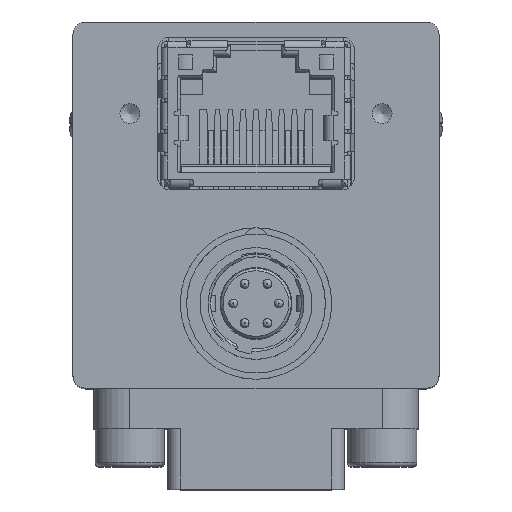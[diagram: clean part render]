
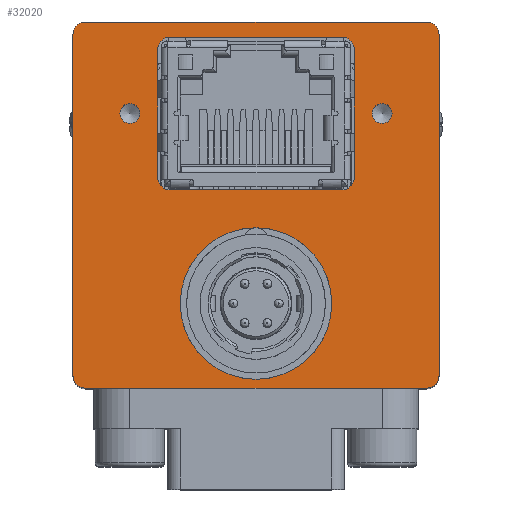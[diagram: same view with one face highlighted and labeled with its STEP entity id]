
A CAD part, top view. The second image highlights one B-rep face of the part: STEP entity #32020.
In plain terms, the highlighted planar face has unit normal (0, 0, 1).
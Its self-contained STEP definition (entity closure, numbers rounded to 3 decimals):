
#516=FACE_BOUND('',#5537,.T.);
#517=FACE_BOUND('',#5538,.T.);
#518=FACE_BOUND('',#5539,.T.);
#519=FACE_BOUND('',#5540,.T.);
#756=CIRCLE('',#33558,1.);
#1243=CIRCLE('',#34578,0.784);
#1247=CIRCLE('',#34586,0.784);
#1257=CIRCLE('',#34607,6.);
#1275=CIRCLE('',#34667,1.);
#1276=CIRCLE('',#34670,1.);
#1277=CIRCLE('',#34675,1.);
#1279=CIRCLE('',#34693,1.);
#1280=CIRCLE('',#34696,1.);
#1281=CIRCLE('',#34698,1.);
#1282=CIRCLE('',#34699,1.);
#3813=FACE_OUTER_BOUND('',#5536,.T.);
#5536=EDGE_LOOP('',(#25800,#25801,#25802,#25803,#25804,#25805,#25806,#25807));
#5537=EDGE_LOOP('',(#25808));
#5538=EDGE_LOOP('',(#25809));
#5539=EDGE_LOOP('',(#25810));
#5540=EDGE_LOOP('',(#25811,#25812,#25813,#25814,#25815,#25816,#25817,#25818));
#7326=LINE('',#51189,#10157);
#8257=LINE('',#55960,#11088);
#8261=LINE('',#55970,#11092);
#8263=LINE('',#55976,#11094);
#8281=LINE('',#56018,#11112);
#8284=LINE('',#56029,#11115);
#8285=LINE('',#56032,#11116);
#8286=LINE('',#56033,#11117);
#10157=VECTOR('',#38514,10.);
#11088=VECTOR('',#41663,10.);
#11092=VECTOR('',#41677,10.);
#11094=VECTOR('',#41685,10.);
#11112=VECTOR('',#41739,10.);
#11115=VECTOR('',#41750,10.);
#11116=VECTOR('',#41753,10.);
#11117=VECTOR('',#41754,10.);
#12796=VERTEX_POINT('',#51179);
#12797=VERTEX_POINT('',#51181);
#12799=VERTEX_POINT('',#51188);
#13795=VERTEX_POINT('',#55620);
#13809=VERTEX_POINT('',#55658);
#13825=VERTEX_POINT('',#55738);
#13888=VERTEX_POINT('',#55952);
#13889=VERTEX_POINT('',#55954);
#13890=VERTEX_POINT('',#55958);
#13891=VERTEX_POINT('',#55968);
#13892=VERTEX_POINT('',#55972);
#13896=VERTEX_POINT('',#56011);
#13897=VERTEX_POINT('',#56012);
#13898=VERTEX_POINT('',#56017);
#13899=VERTEX_POINT('',#56021);
#13900=VERTEX_POINT('',#56025);
#13901=VERTEX_POINT('',#56026);
#13902=VERTEX_POINT('',#56028);
#13903=VERTEX_POINT('',#56030);
#16339=EDGE_CURVE('',#12797,#12796,#756,.T.);
#16343=EDGE_CURVE('',#12799,#12797,#7326,.T.);
#17822=EDGE_CURVE('',#13795,#13795,#1243,.T.);
#17842=EDGE_CURVE('',#13809,#13809,#1247,.T.);
#17871=EDGE_CURVE('',#13825,#13825,#1257,.T.);
#17981=EDGE_CURVE('',#13889,#13888,#1275,.T.);
#17984=EDGE_CURVE('',#13888,#13890,#8257,.T.);
#17985=EDGE_CURVE('',#13890,#12799,#1276,.T.);
#17989=EDGE_CURVE('',#12796,#13891,#8261,.T.);
#17991=EDGE_CURVE('',#13891,#13892,#1277,.T.);
#17992=EDGE_CURVE('',#13892,#13889,#8263,.T.);
#18009=EDGE_CURVE('',#13896,#13897,#1279,.T.);
#18012=EDGE_CURVE('',#13898,#13896,#8281,.T.);
#18014=EDGE_CURVE('',#13899,#13898,#1280,.T.);
#18016=EDGE_CURVE('',#13900,#13901,#1281,.T.);
#18017=EDGE_CURVE('',#13902,#13900,#8284,.T.);
#18018=EDGE_CURVE('',#13903,#13902,#1282,.T.);
#18019=EDGE_CURVE('',#13897,#13903,#8285,.T.);
#18020=EDGE_CURVE('',#13901,#13899,#8286,.T.);
#25800=ORIENTED_EDGE('',*,*,#18016,.F.);
#25801=ORIENTED_EDGE('',*,*,#18017,.F.);
#25802=ORIENTED_EDGE('',*,*,#18018,.F.);
#25803=ORIENTED_EDGE('',*,*,#18019,.F.);
#25804=ORIENTED_EDGE('',*,*,#18009,.F.);
#25805=ORIENTED_EDGE('',*,*,#18012,.F.);
#25806=ORIENTED_EDGE('',*,*,#18014,.F.);
#25807=ORIENTED_EDGE('',*,*,#18020,.F.);
#25808=ORIENTED_EDGE('',*,*,#17822,.T.);
#25809=ORIENTED_EDGE('',*,*,#17842,.T.);
#25810=ORIENTED_EDGE('',*,*,#17871,.T.);
#25811=ORIENTED_EDGE('',*,*,#17985,.T.);
#25812=ORIENTED_EDGE('',*,*,#16343,.T.);
#25813=ORIENTED_EDGE('',*,*,#16339,.T.);
#25814=ORIENTED_EDGE('',*,*,#17989,.T.);
#25815=ORIENTED_EDGE('',*,*,#17991,.T.);
#25816=ORIENTED_EDGE('',*,*,#17992,.T.);
#25817=ORIENTED_EDGE('',*,*,#17981,.T.);
#25818=ORIENTED_EDGE('',*,*,#17984,.T.);
#29045=PLANE('',#34697);
#32020=ADVANCED_FACE('',(#3813,#516,#517,#518,#519),#29045,.F.);
#33558=AXIS2_PLACEMENT_3D('',#51182,#38507,#38508);
#34578=AXIS2_PLACEMENT_3D('',#55621,#41355,#41356);
#34586=AXIS2_PLACEMENT_3D('',#55659,#41387,#41388);
#34607=AXIS2_PLACEMENT_3D('',#55739,#41445,#41446);
#34667=AXIS2_PLACEMENT_3D('',#55955,#41657,#41658);
#34670=AXIS2_PLACEMENT_3D('',#55962,#41666,#41667);
#34675=AXIS2_PLACEMENT_3D('',#55974,#41681,#41682);
#34693=AXIS2_PLACEMENT_3D('',#56013,#41733,#41734);
#34696=AXIS2_PLACEMENT_3D('',#56022,#41743,#41744);
#34697=AXIS2_PLACEMENT_3D('',#56024,#41746,#41747);
#34698=AXIS2_PLACEMENT_3D('',#56027,#41748,#41749);
#34699=AXIS2_PLACEMENT_3D('',#56031,#41751,#41752);
#38507=DIRECTION('center_axis',(0.,0.,
-1.));
#38508=DIRECTION('ref_axis',(1.,0.,0.));
#38514=DIRECTION('',(1.,0.,0.));
#41355=DIRECTION('center_axis',(0.,0.,
-1.));
#41356=DIRECTION('ref_axis',(-1.,0.,0.));
#41387=DIRECTION('center_axis',(0.,0.,
-1.));
#41388=DIRECTION('ref_axis',(1.,0.,0.));
#41445=DIRECTION('center_axis',(0.,0.,
-1.));
#41446=DIRECTION('ref_axis',(1.,0.,0.));
#41657=DIRECTION('center_axis',(0.,0.,
-1.));
#41658=DIRECTION('ref_axis',(-1.,0.,0.));
#41663=DIRECTION('',(0.,1.,0.));
#41666=DIRECTION('center_axis',(0.,0.,
-1.));
#41667=DIRECTION('ref_axis',(0.,1.,0.));
#41677=DIRECTION('',(0.,-1.,0.));
#41681=DIRECTION('center_axis',(0.,0.,
-1.));
#41682=DIRECTION('ref_axis',(0.,-1.,0.));
#41685=DIRECTION('',(-1.,0.,0.));
#41733=DIRECTION('center_axis',(0.,0.,
-1.));
#41734=DIRECTION('ref_axis',(0.,1.,0.));
#41739=DIRECTION('',(1.,0.,0.));
#41743=DIRECTION('center_axis',(0.,0.,
-1.));
#41744=DIRECTION('ref_axis',(-1.,0.,0.));
#41746=DIRECTION('center_axis',(0.,0.,
-1.));
#41747=DIRECTION('ref_axis',(-1.,0.,0.));
#41748=DIRECTION('center_axis',(0.,0.,
-1.));
#41749=DIRECTION('ref_axis',(0.,-1.,0.));
#41750=DIRECTION('',(-1.,0.,0.));
#41751=DIRECTION('center_axis',(0.,0.,
-1.));
#41752=DIRECTION('ref_axis',(1.,0.,0.));
#41753=DIRECTION('',(0.,-1.,0.));
#41754=DIRECTION('',(0.,1.,0.));
#51179=CARTESIAN_POINT('',(7.8,12.3,40.2));
#51181=CARTESIAN_POINT('',(6.8,13.3,40.2));
#51182=CARTESIAN_POINT('Origin',(6.8,12.3,40.2));
#51188=CARTESIAN_POINT('',(-6.8,13.3,40.2));
#51189=CARTESIAN_POINT('',(-3.4,13.3,40.2));
#55620=CARTESIAN_POINT('',(-9.217,7.25,40.2));
#55621=CARTESIAN_POINT('Origin',(-10.,7.25,40.2));
#55658=CARTESIAN_POINT('',(9.217,7.25,40.2));
#55659=CARTESIAN_POINT('Origin',(10.,7.25,40.2));
#55738=CARTESIAN_POINT('',(-6.,-7.8,40.2));
#55739=CARTESIAN_POINT('Origin',(0.,-7.8,40.2));
#55952=CARTESIAN_POINT('',(-7.8,2.2,40.2));
#55954=CARTESIAN_POINT('',(-6.8,1.2,40.2));
#55955=CARTESIAN_POINT('Origin',(-6.8,2.2,40.2));
#55958=CARTESIAN_POINT('',(-7.8,12.3,40.2));
#55960=CARTESIAN_POINT('',(-7.8,1.1,40.2));
#55962=CARTESIAN_POINT('Origin',(-6.8,12.3,40.2));
#55968=CARTESIAN_POINT('',(7.8,2.2,40.2));
#55970=CARTESIAN_POINT('',(7.8,6.15,40.2));
#55972=CARTESIAN_POINT('',(6.8,1.2,40.2));
#55974=CARTESIAN_POINT('Origin',(6.8,2.2,40.2));
#55976=CARTESIAN_POINT('',(3.4,1.2,40.2));
#56011=CARTESIAN_POINT('',(13.5,14.5,40.2));
#56012=CARTESIAN_POINT('',(14.5,13.5,40.2));
#56013=CARTESIAN_POINT('Origin',(13.5,13.5,40.2));
#56017=CARTESIAN_POINT('',(-13.5,14.5,40.2));
#56018=CARTESIAN_POINT('',(-13.5,14.5,40.2));
#56021=CARTESIAN_POINT('',(-14.5,13.5,40.2));
#56022=CARTESIAN_POINT('Origin',(-13.5,13.5,40.2));
#56024=CARTESIAN_POINT('Origin',(0.,0.,
40.2));
#56025=CARTESIAN_POINT('',(-13.5,-14.5,40.2));
#56026=CARTESIAN_POINT('',(-14.5,-13.5,40.2));
#56027=CARTESIAN_POINT('Origin',(-13.5,-13.5,40.2));
#56028=CARTESIAN_POINT('',(13.5,-14.5,40.2));
#56029=CARTESIAN_POINT('',(13.5,-14.5,40.2));
#56030=CARTESIAN_POINT('',(14.5,-13.5,40.2));
#56031=CARTESIAN_POINT('Origin',(13.5,-13.5,40.2));
#56032=CARTESIAN_POINT('',(14.5,13.5,40.2));
#56033=CARTESIAN_POINT('',(-14.5,-13.5,40.2));
